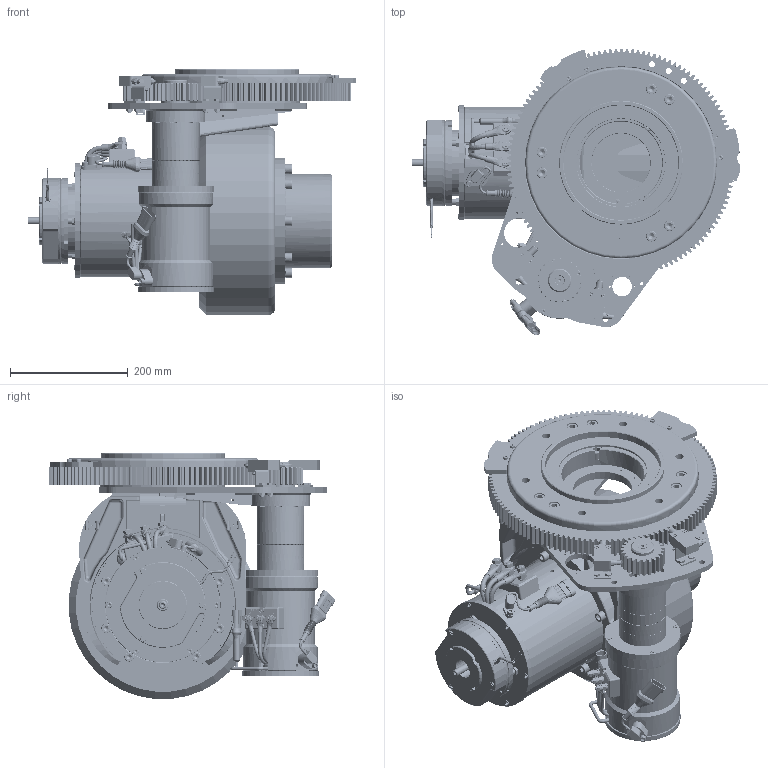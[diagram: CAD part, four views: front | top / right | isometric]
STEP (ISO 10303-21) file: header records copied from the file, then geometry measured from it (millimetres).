
FILE_DESCRIPTION(/* description */ (''),/* implementation_level */ '2;1');
FILE_NAME(/* name */ 'Z:\SITO WEB 2024\Motoruote\Orizzontali sterzanti\MR260B320FMS\MR260B320FMS AC + AC\MR260B320FMS-AC.D.191.stp',/* time_stamp */ '2024-07-31T13:34:58+02:00',/* author */ ('cad3'),/* organization */ (''),/* preprocessor_version */ 'ST-DEVELOPER v18.1',/* originating_system */ 'Autodesk Inventor 2022',/* authorisation */ '');
FILE_SCHEMA (('AUTOMOTIVE_DESIGN { 1 0 10303 214 3 1 1 }'));
Products named in the file (1): MR260B320FMS-AC.D.191
Bounding box: 556.46 x 486.07 x 416.89 mm (x, y, z)
Volume: 17389046.6 mm3; surface area: 2545951.7 mm2
Topology: 17 solids, 150 shells, 21128 faces, 55682 edges, 36456 vertices
Faces by surface type: plane 16370, cylinder 2741, cone 888, bspline 626, torus 477, sphere 26
Full cylindrical faces by diameter (mm): 1.88 x2, 2 x2, 3 x3, 3.15 x2, 3.242 x5, 4 x16, 4.134 x17, 4.25 x2, 4.5 x10, 4.8 x8, 4.917 x26, 5 x23, 5.1 x3, 5.3 x10, 5.35 x6, 5.5 x10, 5.9 x4, 6 x86, 6.2 x10, 6.3 x2, 6.4 x22, 6.5 x38, 6.6 x25, 6.647 x9, 6.8 x5, 7 x5, 7.8 x9, 8 x40, 8.2 x6, 8.3 x5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
Entity records: 760667 total; most frequent: CARTESIAN_POINT 210387, ORIENTED_EDGE 110971, DIRECTION 109099, EDGE_CURVE 55507, AXIS2_PLACEMENT_3D 36731, VERTEX_POINT 36451, LINE 35637, VECTOR 35637
